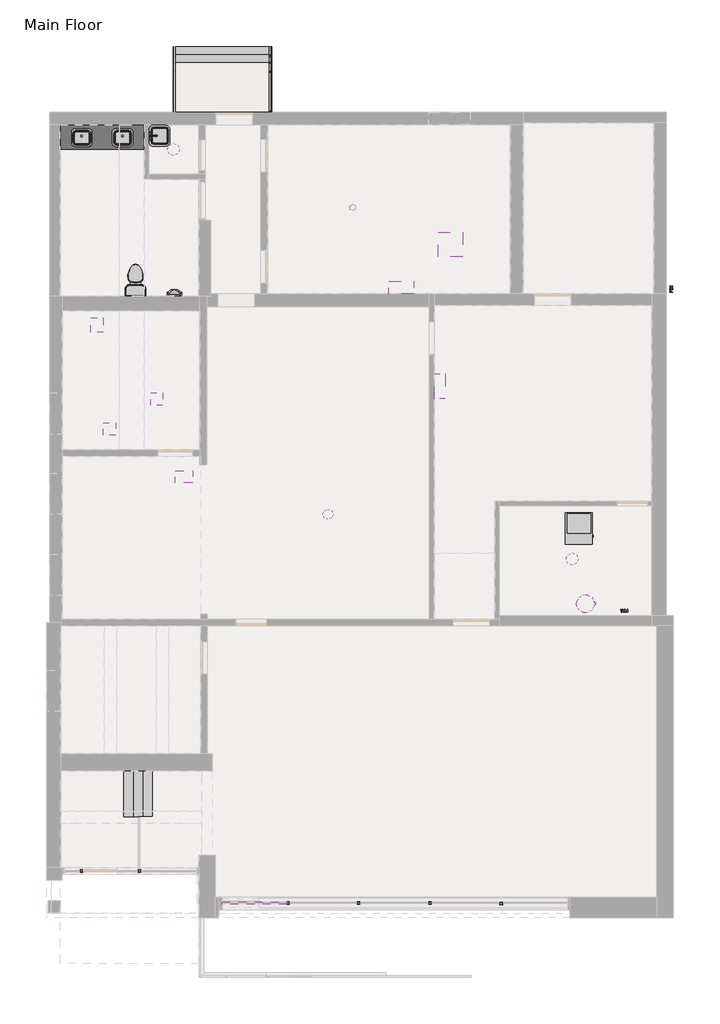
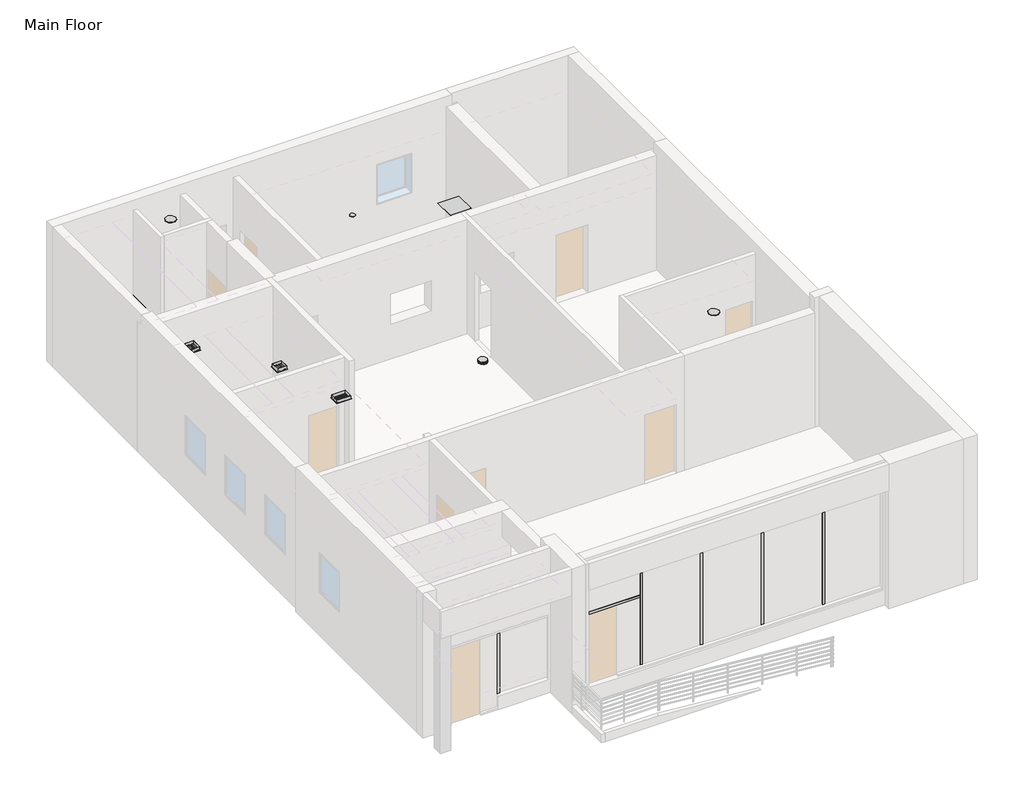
# One storey, part 4 of 4: 23 proxies, 5 flow terminals, 2 stair flights, 1 railing, 1 slab.
"""IFC4 building model written with IfcOpenShell, lengths in millimetres."""

from ifc_helpers import new_model, si_unit, point, frame, frame_2d, origin, place, context, project, spatial, polyline, circle_curve, ellipse_curve, trimmed, segment, composite_curve, outline, extrude, transform, mapped, element, save
from ifc_brep_helpers import plane_surface, cylinder_surface, revolved_surface, advanced_brep
from components import air_grill_2x2_air_grill_2x2_a12f53e0, air_vent_air_vent_815df070, air_vent_air_vent_fe58e0aa, air_vent_air_vent_947aef1c, air_vent_air_vent_ff3797d8, air_vent_air_vent_ae41c83b, ceiling_mounted_light_ceiling_mounted_light_7ff73806, furnace_39496320, hot_water_heater_200_mbh_dcdfe45b, hydro_meter_family3_de04d33e, recessed_light_recessed_light_dcc5d60b, smoke_detector_smoke_detector_231b9623, water_meter_family3_4bf23a0c, bath_basin_500_x_440mm_22030706, bath_basin_500_x_440mm_50045a32, bath_basin_floor_500_x_440mm_6f474ecf, bath_urinal_m_urinal_wall_3d_10477d84, toilet_toilet_5cb52bd4, toilet_toilet_183bbd19, non_monolithic_landing_a57ce1cf, stair_flight_50mm_tread_25mm_nosing_13mm_riser_778b39ea, stair_flight_50mm_tread_25mm_nosing_13mm_riser_2ef6ebb5

model = new_model("IFC4")

# Units and contexts
model_context = context("Model", 3, world=origin())
ifc_project = project(units=[si_unit("LENGTHUNIT", "METRE", prefix="MILLI")], contexts=[model_context])

# Site, building, storey
site = spatial("IfcSite", under=ifc_project)
building = spatial("IfcBuilding", under=site)
storey = spatial("IfcBuildingStorey", under=building, Name="Main Floor", Elevation=0.0)

# Proxies
placement = place(None, origin())
element("IfcBuildingElementProxy", 1, Name="Planitar-Mullion", ObjectType="Planitar-Mullion", at=placement, inside=storey, context=model_context, shape_type="SweptSolid", body=[
    extrude(outline(polyline([(1923.3756997, -9377.7328667), (1923.3756997, -9314.2328667), (1986.8756997, -9314.2328667), (1986.8756997, -9377.7328667), (1923.3756997, -9377.7328667)])), frame((0.0, 0.0, 527.05), z_axis=(0.0, 0.0, 1.0), x_axis=(1.0, 0.0, 0.0)), (0.0, 0.0, 1.0), 3181.35),
])
element("IfcBuildingElementProxy", 2, Name="Planitar-Mullion", ObjectType="Planitar-Mullion", at=placement, inside=storey, context=model_context, shape_type="SweptSolid", body=[
    extrude(outline(polyline([(183.4756997, -9377.7328667), (183.4756997, -9314.2328667), (246.9756997, -9314.2328667), (246.9756997, -9377.7328667), (183.4756997, -9377.7328667)])), frame((0.0, 0.0, 527.05), z_axis=(0.0, 0.0, 1.0), x_axis=(1.0, 0.0, 0.0)), (0.0, 0.0, 1.0), 3181.35),
])
element("IfcBuildingElementProxy", 3, Name="Planitar-Mullion", ObjectType="Planitar-Mullion", at=placement, inside=storey, context=model_context, shape_type="SweptSolid", body=[
    extrude(outline(polyline([(3688.6756997, -9377.7328667), (3688.6756997, -9314.2328667), (3752.1756997, -9314.2328667), (3752.1756997, -9377.7328667), (3688.6756997, -9377.7328667)])), frame((0.0, 0.0, 527.05), z_axis=(0.0, 0.0, 1.0), x_axis=(1.0, 0.0, 0.0)), (0.0, 0.0, 1.0), 3181.35),
])
element("IfcBuildingElementProxy", 4, Name="Planitar-Mullion", ObjectType="Planitar-Mullion", at=placement, inside=storey, context=model_context, shape_type="SweptSolid", body=[
    extrude(outline(polyline([(5453.9756997, -9390.4328667), (5453.9756997, -9326.9328667), (5517.4756997, -9326.9328667), (5517.4756997, -9390.4328667), (5453.9756997, -9390.4328667)])), frame((0.0, 0.0, 527.05), z_axis=(0.0, 0.0, 1.0), x_axis=(1.0, 0.0, 0.0)), (0.0, 0.0, 1.0), 3181.35),
])
element("IfcBuildingElementProxy", 5, Name="Planitar-Mullion", ObjectType="Planitar-Mullion", at=placement, inside=storey, context=model_context, shape_type="SweptSolid", body=[
    extrude(outline(polyline([(-1410.3743003, -9377.7328667), (-1410.3743003, -9314.2328667), (183.4756997, -9314.2328667), (183.4756997, -9377.7328667), (-1410.3743003, -9377.7328667)])), frame((0.0, 0.0, 2590.8), z_axis=(0.0, 0.0, 1.0), x_axis=(1.0, 0.0, 0.0)), (0.0, 0.0, 1.0), 63.5),
])
element("IfcBuildingElementProxy", 6, Name="Planitar-Mullion", ObjectType="Planitar-Mullion", at=placement, inside=storey, context=model_context, shape_type="SweptSolid", body=[
    extrude(outline(polyline([(-3491.6370003, -8590.3328667), (-3491.6370003, -8526.8328667), (-3428.1370003, -8526.8328667), (-3428.1370003, -8590.3328667), (-3491.6370003, -8590.3328667)])), frame((0.0, 0.0, 457.2), z_axis=(0.0, 0.0, 1.0), x_axis=(1.0, 0.0, 0.0)), (0.0, 0.0, 1.0), 1879.6),
])
element("IfcBuildingElementProxy", 7, Name="Planitar-Mullion", ObjectType="Planitar-Mullion", at=placement, inside=storey, context=model_context, shape_type="SweptSolid", body=[
    extrude(outline(polyline([(-4926.7370003, -8590.3328667), (-4926.7370003, -8526.8328667), (-4863.2370003, -8526.8328667), (-4863.2370003, -8590.3328667), (-4926.7370003, -8590.3328667)])), frame((0.0, 0.0, 50.8), z_axis=(0.0, 0.0, 1.0), x_axis=(1.0, 0.0, 0.0)), (0.0, 0.0, 1.0), 2286.0),
])
air_grill_2x2_air_grill_2x2_shape = air_grill_2x2_air_grill_2x2_a12f53e0(model_context)
element("IfcBuildingElementProxy", 8, Name="Air Grill 2X2 : Air Grill 2X2", ObjectType="Air Grill 2X2 : Air Grill 2X2", at=placement, inside=storey, context=model_context, shape_type="MappedRepresentation", body=[
    mapped(air_grill_2x2_air_grill_2x2_shape, transform((4229.9629997, 6934.4889424, 812.8), x_axis=(1.0, 0.0, 0.0), y_axis=(0.0, 1.0, 0.0), z_axis=(0.0, 0.0, 1.0))),
])
air_vent_air_vent_shape = air_vent_air_vent_815df070(model_context)
element("IfcBuildingElementProxy", 9, Name="Air Vent : Air Vent", ObjectType="Air Vent : Air Vent", at=placement, inside=storey, context=model_context, shape_type="MappedRepresentation", body=[
    mapped(air_vent_air_vent_shape, transform((3010.7629997, 5871.0802864, 812.8), x_axis=(0.0, 1.0, 0.0), y_axis=(-1.0, 0.0, 0.0), z_axis=(0.0, 0.0, 1.0))),
])
air_vent_air_vent_2_shape = air_vent_air_vent_fe58e0aa(model_context)
element("IfcBuildingElementProxy", 10, Name="Air Vent : Air Vent", ObjectType="Air Vent : Air Vent", at=placement, inside=storey, context=model_context, shape_type="MappedRepresentation", body=[
    mapped(air_vent_air_vent_2_shape, transform((-4202.8370003, 2376.1171333, 711.2), x_axis=(0.0, 1.0, 0.0), y_axis=(-1.0, 0.0, 0.0), z_axis=(0.0, 0.0, 1.0))),
])
element("IfcBuildingElementProxy", 11, Name="Air Vent : Air Vent", ObjectType="Air Vent : Air Vent", at=placement, inside=storey, context=model_context, shape_type="MappedRepresentation", body=[
    mapped(air_vent_air_vent_2_shape, transform((-3034.4370003, 3112.7171333, 711.2), x_axis=(-1.0, 0.0, 0.0), y_axis=(0.0, -1.0, 0.0), z_axis=(0.0, 0.0, 1.0))),
])
air_vent_air_vent_3_shape = air_vent_air_vent_947aef1c(model_context)
element("IfcBuildingElementProxy", 12, Name="Air Vent : Air Vent", ObjectType="Air Vent : Air Vent", at=placement, inside=storey, context=model_context, shape_type="MappedRepresentation", body=[
    mapped(air_vent_air_vent_3_shape, transform((-4507.6370003, 4941.5171333, 711.2), x_axis=(-1.0, 0.0, 0.0), y_axis=(0.0, -1.0, 0.0), z_axis=(0.0, 0.0, 1.0))),
])
air_vent_air_vent_4_shape = air_vent_air_vent_ff3797d8(model_context)
element("IfcBuildingElementProxy", 13, Name="Air Vent : Air Vent", ObjectType="Air Vent : Air Vent", at=placement, inside=storey, context=model_context, shape_type="MappedRepresentation", body=[
    mapped(air_vent_air_vent_4_shape, transform((-2361.3370003, 1195.0171333, 711.2), x_axis=(0.0, 1.0, 0.0), y_axis=(-1.0, 0.0, 0.0), z_axis=(0.0, 0.0, 1.0))),
])
air_vent_air_vent_5_shape = air_vent_air_vent_ae41c83b(model_context)
element("IfcBuildingElementProxy", 14, Name="Air Vent : Air Vent", ObjectType="Air Vent : Air Vent", at=placement, inside=storey, context=model_context, shape_type="MappedRepresentation", body=[
    mapped(air_vent_air_vent_5_shape, transform((3963.2629997, 3430.2171333, 609.6), x_axis=(-1.0, 0.0, 0.0), y_axis=(0.0, -1.0, 0.0), z_axis=(0.0, 0.0, 1.0))),
])
ceiling_mounted_light_ceiling_mounted_light_shape = ceiling_mounted_light_ceiling_mounted_light_7ff73806(model_context)
element("IfcBuildingElementProxy", 15, Name="Ceiling Mounted Light : Ceiling Mounted Light", ObjectType="Ceiling Mounted Light : Ceiling Mounted Light", at=placement, inside=storey, context=model_context, shape_type="MappedRepresentation", body=[
    mapped(ceiling_mounted_light_ceiling_mounted_light_shape, transform((-2621.6870003, 9284.9171333, 1371.6), x_axis=(1.0, 0.0, 0.0), y_axis=(0.0, 1.0, 0.0), z_axis=(0.0, 0.0, 1.0))),
])
element("IfcBuildingElementProxy", 16, Name="Ceiling Mounted Light : Ceiling Mounted Light", ObjectType="Ceiling Mounted Light : Ceiling Mounted Light", at=placement, inside=storey, context=model_context, shape_type="MappedRepresentation", body=[
    mapped(ceiling_mounted_light_ceiling_mounted_light_shape, transform((7239.8629997, -843.3328667, 1219.2), x_axis=(1.0, 0.0, 0.0), y_axis=(0.0, 1.0, 0.0), z_axis=(0.0, 0.0, 1.0))),
])
element("IfcBuildingElementProxy", 17, Name="Countertop- Rectangle shape base : 1525 x 762mm", ObjectType="Countertop- Rectangle shape base : 1525 x 762mm", at=placement, inside=storey, context=model_context, shape_type="SolidModel", body=[
    extrude(outline(polyline([(-5320.4370003, 9392.8671333), (-5320.4370003, 9799.2671333), (-3447.1870003, 9799.2671333), (-3447.1870003, 9392.8671333), (-5320.4370003, 9392.8671333)])), frame((0.0, 0.0, 457.2), z_axis=(0.0, 0.0, 1.0), x_axis=(1.0, 0.0, 0.0)), (0.0, 0.0, 1.0), 101.6),
    advanced_brep(
    [(-5422.0370003, 9291.2671333, 558.8), (-5422.0370003, 9900.8671333, 558.8), (-3345.5870003, 9900.8671333, 558.8), (-3345.5870003, 9291.2671333, 558.8), (-5422.0370003, 9291.2671333, 1333.5), (-3345.5870003, 9291.2671333, 1333.5), (-3345.5870003, 9900.8671333, 1333.5), (-5422.0370003, 9900.8671333, 1333.5), (-5049.7370003, 9357.0171333, 1333.5), (-5138.6370002, 9445.9171332, 1333.5), (-5138.6370002, 9733.5171333, 1333.5), (-5075.1370002, 9797.0171333, 1333.5), (-4702.1370003, 9797.0171333, 1333.5), (-4638.6370003, 9733.5171333, 1333.5), (-4638.6370003, 9441.3672004, 1333.5), (-4722.9870674, 9357.0171333, 1333.5), (-3628.9870004, 9445.9171332, 1333.5), (-3717.8870003, 9357.0171333, 1333.5), (-4044.6369332, 9357.0171333, 1333.5), (-4128.9870003, 9441.3672004, 1333.5), (-4128.9870003, 9733.5171333, 1333.5), (-4065.4870003, 9797.0171333, 1333.5), (-3692.4870004, 9797.0171333, 1333.5), (-3628.9870004, 9733.5171333, 1333.5), (-5138.6370002, 9445.9171332, 1019.9380761), (-5049.7370003, 9357.0171333, 1019.9380761), (-4722.9870674, 9357.0171333, 1019.9380761), (-4638.6370003, 9441.3672004, 1019.9380761), (-4638.6370003, 9733.5171333, 1019.9380761), (-4702.1370003, 9797.0171333, 1019.9380761), (-5075.1370002, 9797.0171333, 1019.9380761), (-5138.6370002, 9733.5171333, 1019.9380761), (-3628.9870004, 9445.9171332, 1019.9380761), (-3628.9870004, 9733.5171333, 1019.9380761), (-3692.4870004, 9797.0171333, 1019.9380761), (-4065.4870003, 9797.0171333, 1019.9380761), (-4128.9870003, 9733.5171333, 1019.9380761), (-4128.9870003, 9441.3672004, 1019.9380761), (-4044.6369332, 9357.0171333, 1019.9380761), (-3717.8870003, 9357.0171333, 1019.9380761)],
    [
        (0, 1),
        (1, 2),
        (2, 3),
        (3, 0),
        (4, 5),
        (5, 6),
        (6, 7),
        (7, 4),
        (8, 9, circle_curve(frame((-5049.7370003, 9445.9171332, 1333.5), z_axis=(0.0, 0.0, -1.0), x_axis=(1.0, 0.0, 0.0)), 88.8999999)),
        (9, 10),
        (10, 11, circle_curve(frame((-5075.1370002, 9733.5171333, 1333.5), z_axis=(0.0, 0.0, -1.0), x_axis=(1.0, 0.0, 0.0)), 63.5)),
        (11, 12),
        (12, 13, circle_curve(frame((-4702.1370003, 9733.5171333, 1333.5), z_axis=(0.0, 0.0, -1.0), x_axis=(1.0, 0.0, 0.0)), 63.5)),
        (13, 14),
        (14, 15, circle_curve(frame((-4722.9870674, 9441.3672004, 1333.5), z_axis=(0.0, 0.0, -1.0), x_axis=(1.0, 0.0, 0.0)), 84.3500671)),
        (15, 8),
        (16, 17, circle_curve(frame((-3717.8870003, 9445.9171332, 1333.5), z_axis=(0.0, 0.0, -1.0), x_axis=(-1.0, 0.0, 0.0)), 88.8999999)),
        (17, 18),
        (18, 19, circle_curve(frame((-4044.6369332, 9441.3672004, 1333.5), z_axis=(0.0, 0.0, -1.0), x_axis=(-1.0, 0.0, 0.0)), 84.3500671)),
        (19, 20),
        (20, 21, circle_curve(frame((-4065.4870003, 9733.5171333, 1333.5), z_axis=(0.0, 0.0, -1.0), x_axis=(-1.0, 0.0, 0.0)), 63.5)),
        (21, 22),
        (22, 23, circle_curve(frame((-3692.4870004, 9733.5171333, 1333.5), z_axis=(0.0, 0.0, -1.0), x_axis=(-1.0, 0.0, 0.0)), 63.5)),
        (23, 16),
        (3, 5),
        (4, 0),
        (2, 6),
        (1, 7),
        (24, 25, circle_curve(frame((-5049.7370003, 9445.9171332, 1019.9380761), z_axis=(0.0, 0.0, 1.0), x_axis=(1.0, 0.0, 0.0)), 88.8999999)),
        (25, 26),
        (26, 27, circle_curve(frame((-4722.9870674, 9441.3672004, 1019.9380761), z_axis=(0.0, 0.0, 1.0), x_axis=(1.0, 0.0, 0.0)), 84.3500671)),
        (27, 28),
        (28, 29, circle_curve(frame((-4702.1370003, 9733.5171333, 1019.9380761), z_axis=(0.0, 0.0, 1.0), x_axis=(1.0, 0.0, 0.0)), 63.5)),
        (29, 30),
        (30, 31, circle_curve(frame((-5075.1370002, 9733.5171333, 1019.9380761), z_axis=(0.0, 0.0, 1.0), x_axis=(1.0, 0.0, 0.0)), 63.5)),
        (31, 24),
        (24, 9),
        (8, 25),
        (15, 26),
        (14, 27),
        (13, 28),
        (12, 29),
        (11, 30),
        (10, 31),
        (32, 33),
        (33, 34, circle_curve(frame((-3692.4870004, 9733.5171333, 1019.9380761), z_axis=(0.0, 0.0, 1.0), x_axis=(-1.0, 0.0, 0.0)), 63.5)),
        (34, 35),
        (35, 36, circle_curve(frame((-4065.4870003, 9733.5171333, 1019.9380761), z_axis=(0.0, 0.0, 1.0), x_axis=(-1.0, 0.0, 0.0)), 63.5)),
        (36, 37),
        (37, 38, circle_curve(frame((-4044.6369332, 9441.3672004, 1019.9380761), z_axis=(0.0, 0.0, 1.0), x_axis=(-1.0, 0.0, 0.0)), 84.3500671)),
        (38, 39),
        (39, 32, circle_curve(frame((-3717.8870003, 9445.9171332, 1019.9380761), z_axis=(0.0, 0.0, 1.0), x_axis=(-1.0, 0.0, 0.0)), 88.8999999)),
        (39, 17),
        (16, 32),
        (38, 18),
        (37, 19),
        (36, 20),
        (35, 21),
        (34, 22),
        (33, 23),
    ],
    [
        plane_surface(frame((-3345.5870003, 9291.2671333, 558.8), z_axis=(0.0, 0.0, -1.0), x_axis=(-1.0, 0.0, 0.0))),
        plane_surface(frame((-3345.5870003, 9291.2671333, 1333.5), z_axis=(0.0, 0.0, 1.0), x_axis=(1.0, 0.0, 0.0))),
        plane_surface(frame((-5422.0370003, 9291.2671333, 1333.5), z_axis=(0.0, -1.0, 0.0), x_axis=(0.0, 0.0, -1.0))),
        plane_surface(frame((-3345.5870003, 9291.2671333, 1333.5), z_axis=(1.0, 0.0, 0.0), x_axis=(0.0, 0.0, -1.0))),
        plane_surface(frame((-3345.5870003, 9900.8671333, 1333.5), z_axis=(0.0, 1.0, 0.0), x_axis=(0.0, 0.0, -1.0))),
        plane_surface(frame((-5422.0370003, 9900.8671333, 1333.5), z_axis=(-1.0, 0.0, 0.0), x_axis=(0.0, 0.0, -1.0))),
        plane_surface(frame((-4960.8370004, 9445.9171332, 1019.9380761), z_axis=(0.0, 0.0, 1.0), x_axis=(0.0, -1.0, 0.0))),
        revolved_surface(polyline([(-4960.8370004, 9445.9171332, 1333.5), (-4960.8370004, 9445.9171332, 1019.9380761)]), (-5049.7370003, 9445.9171332, 1019.9380761), (0.0, 0.0, 1.0)),
        plane_surface(frame((-5049.7370003, 9357.0171333, 1422.4), z_axis=(0.0, 1.0, 0.0), x_axis=(0.0, 0.0, -1.0))),
        revolved_surface(polyline([(-4638.6370003, 9441.3672004, 1333.5), (-4638.6370003, 9441.3672004, 1019.9380761)]), (-4722.9870674, 9441.3672004, 1019.9380761), (0.0, 0.0, 1.0)),
        plane_surface(frame((-4638.6370003, 9441.3672004, 1422.4), z_axis=(-1.0, 0.0, 0.0), x_axis=(0.0, 0.0, -1.0))),
        revolved_surface(polyline([(-4638.6370003, 9733.5171333, 1333.5), (-4638.6370003, 9733.5171333, 1019.9380761)]), (-4702.1370003, 9733.5171333, 1019.9380761), (0.0, 0.0, 1.0)),
        plane_surface(frame((-4702.1370003, 9797.0171333, 1422.4), z_axis=(0.0, -1.0, 0.0), x_axis=(0.0, 0.0, -1.0))),
        revolved_surface(polyline([(-5011.6370002, 9733.5171333, 1333.5), (-5011.6370002, 9733.5171333, 1019.9380761)]), (-5075.1370002, 9733.5171333, 1019.9380761), (0.0, 0.0, 1.0)),
        plane_surface(frame((-5138.6370002, 9733.5171333, 1422.4), z_axis=(1.0, 0.0, 0.0), x_axis=(0.0, 0.0, -1.0))),
        plane_surface(frame((-3806.7870002, 9445.9171332, 1019.9380761), z_axis=(0.0, 0.0, 1.0), x_axis=(0.0, -1.0, 0.0))),
        revolved_surface(polyline([(-3806.7870002, 9445.9171332, 1333.5), (-3806.7870002, 9445.9171332, 1019.9380761)]), (-3717.8870003, 9445.9171332, 1019.9380761), (0.0, 0.0, 1.0)),
        plane_surface(frame((-3717.8870003, 9357.0171333, 1422.4), z_axis=(0.0, 1.0, 0.0), x_axis=(0.0, 0.0, -1.0))),
        revolved_surface(polyline([(-4128.9870003, 9441.3672004, 1333.5), (-4128.9870003, 9441.3672004, 1019.9380761)]), (-4044.6369332, 9441.3672004, 1019.9380761), (0.0, 0.0, 1.0)),
        plane_surface(frame((-4128.9870003, 9441.3672004, 1422.4), z_axis=(1.0, 0.0, 0.0), x_axis=(0.0, 0.0, -1.0))),
        revolved_surface(polyline([(-4128.9870003, 9733.5171333, 1333.5), (-4128.9870003, 9733.5171333, 1019.9380761)]), (-4065.4870003, 9733.5171333, 1019.9380761), (0.0, 0.0, 1.0)),
        plane_surface(frame((-4065.4870003, 9797.0171333, 1422.4), z_axis=(0.0, -1.0, 0.0), x_axis=(0.0, 0.0, -1.0))),
        revolved_surface(polyline([(-3755.9870004, 9733.5171333, 1333.5), (-3755.9870004, 9733.5171333, 1019.9380761)]), (-3692.4870004, 9733.5171333, 1019.9380761), (0.0, 0.0, 1.0)),
        plane_surface(frame((-3628.9870004, 9733.5171333, 1422.4), z_axis=(-1.0, 0.0, 0.0), x_axis=(0.0, 0.0, -1.0))),
    ],
    [
        (0, [[1, 2, 3, 4]]),
        (1, [[5, 6, 7, 8], [9, 10, 11, 12, 13, 14, 15, 16], [17, 18, 19, 20, 21, 22, 23, 24]]),
        (2, [[-4, 25, -5, 26]]),
        (3, [[-3, 27, -6, -25]]),
        (4, [[-2, 28, -7, -27]]),
        (5, [[-1, -26, -8, -28]]),
        (6, [[29, 30, 31, 32, 33, 34, 35, 36]]),
        (7, [[-29, 37, -9, 38]]),
        (8, [[-30, -38, -16, 39]]),
        (9, [[-31, -39, -15, 40]]),
        (10, [[-32, -40, -14, 41]]),
        (11, [[-33, -41, -13, 42]]),
        (12, [[-34, -42, -12, 43]]),
        (13, [[-35, -43, -11, 44]]),
        (14, [[-36, -44, -10, -37]]),
        (15, [[45, 46, 47, 48, 49, 50, 51, 52]]),
        (16, [[-52, 53, -17, 54]]),
        (17, [[-51, 55, -18, -53]]),
        (18, [[-50, 56, -19, -55]]),
        (19, [[-49, 57, -20, -56]]),
        (20, [[-48, 58, -21, -57]]),
        (21, [[-47, 59, -22, -58]]),
        (22, [[-46, 60, -23, -59]]),
        (23, [[-45, -54, -24, -60]]),
    ],
),
    extrude(outline(polyline([(-3326.5370003, 9919.9171333), (-3326.5370003, 9272.2171333), (-5441.0870003, 9272.2171333), (-5441.0870003, 9919.9171333), (-3326.5370003, 9919.9171333)]), holes=[composite_curve([segment(trimmed(circle_curve(frame_2d((-5049.7370003, 9445.9171332)), 88.8999999), [point((-5138.6370002, 9445.9171332))], [point((-5049.7370003, 9357.0171333))], True, "CARTESIAN"), True, "CONTINUOUS"), segment(polyline([(-5049.7370003, 9357.0171333), (-4722.9870674, 9357.0171333)]), True, "CONTINUOUS"), segment(trimmed(circle_curve(frame_2d((-4722.9870674, 9441.3672004)), 84.3500671), [point((-4722.9870674, 9357.0171333))], [point((-4638.6370003, 9441.3672004))], True, "CARTESIAN"), True, "CONTINUOUS"), segment(polyline([(-4638.6370003, 9441.3672004), (-4638.6370003, 9733.5171333)]), True, "CONTINUOUS"), segment(trimmed(circle_curve(frame_2d((-4702.1370003, 9733.5171333)), 63.5), [point((-4638.6370003, 9733.5171333))], [point((-4702.1370003, 9797.0171333))], True, "CARTESIAN"), True, "CONTINUOUS"), segment(polyline([(-4702.1370003, 9797.0171333), (-5075.1370002, 9797.0171333)]), True, "CONTINUOUS"), segment(trimmed(circle_curve(frame_2d((-5075.1370002, 9733.5171333)), 63.5), [point((-5075.1370002, 9797.0171333))], [point((-5138.6370002, 9733.5171333))], True, "CARTESIAN"), True, "CONTINUOUS"), segment(polyline([(-5138.6370002, 9733.5171333), (-5138.6370002, 9445.9171332)]), True, "CONTINUOUS")], self_intersect=False), composite_curve([segment(trimmed(circle_curve(frame_2d((-3717.8870003, 9445.9171332)), 88.8999999), [point((-3717.8870003, 9357.0171333))], [point((-3628.9870004, 9445.9171332))], True, "CARTESIAN"), True, "CONTINUOUS"), segment(polyline([(-3628.9870004, 9445.9171332), (-3628.9870004, 9733.5171333)]), True, "CONTINUOUS"), segment(trimmed(circle_curve(frame_2d((-3692.4870004, 9733.5171333)), 63.5), [point((-3628.9870004, 9733.5171333))], [point((-3692.4870004, 9797.0171333))], True, "CARTESIAN"), True, "CONTINUOUS"), segment(polyline([(-3692.4870004, 9797.0171333), (-4065.4870003, 9797.0171333)]), True, "CONTINUOUS"), segment(trimmed(circle_curve(frame_2d((-4065.4870003, 9733.5171333)), 63.5), [point((-4065.4870003, 9797.0171333))], [point((-4128.9870003, 9733.5171333))], True, "CARTESIAN"), True, "CONTINUOUS"), segment(polyline([(-4128.9870003, 9733.5171333), (-4128.9870003, 9441.3672004)]), True, "CONTINUOUS"), segment(trimmed(circle_curve(frame_2d((-4044.6369332, 9441.3672004)), 84.3500671), [point((-4128.9870003, 9441.3672004))], [point((-4044.6369332, 9357.0171333))], True, "CARTESIAN"), True, "CONTINUOUS"), segment(polyline([(-4044.6369332, 9357.0171333), (-3717.8870003, 9357.0171333)]), True, "CONTINUOUS")], self_intersect=False)]), frame((0.0, 0.0, 1333.5), z_axis=(0.0, 0.0, 1.0), x_axis=(1.0, 0.0, 0.0)), (0.0, 0.0, 1.0), 38.1),
])
furnace_shape = furnace_39496320(model_context)
element("IfcBuildingElementProxy", 18, Name="Furnace : 38000 BTUH", ObjectType="Furnace : 38000 BTUH", at=placement, inside=storey, context=model_context, shape_type="MappedRepresentation", body=[
    mapped(furnace_shape, transform((7735.1629997, 299.6671333, 0.0), x_axis=(1.0, 0.0, 0.0), y_axis=(0.0, 1.0, 0.0), z_axis=(0.0, 0.0, 1.0))),
])
hot_water_heater_200_mbh_shape = hot_water_heater_200_mbh_dcdfe45b(model_context)
element("IfcBuildingElementProxy", 19, Name="Hot Water Heater : 200 MBH", ObjectType="Hot Water Heater : 200 MBH", at=placement, inside=storey, context=model_context, shape_type="MappedRepresentation", body=[
    mapped(hot_water_heater_200_mbh_shape, transform((7570.0629997, -1948.2328667, 1828.8), x_axis=(0.0, 1.0, 0.0), y_axis=(-1.0, 0.0, 0.0), z_axis=(0.0, 0.0, 1.0))),
])
hydro_meter_family3_shape = hydro_meter_family3_de04d33e(model_context)
element("IfcBuildingElementProxy", 20, Name="Hydro Meter : Family3", ObjectType="Hydro Meter : Family3", at=placement, inside=storey, context=model_context, shape_type="MappedRepresentation", body=[
    mapped(hydro_meter_family3_shape, transform((9563.9629997, 6008.3171333, 304.8), x_axis=(0.0, -1.0, 0.0), y_axis=(1.0, 0.0, 0.0), z_axis=(0.0, 0.0, 1.0))),
])
recessed_light_recessed_light_shape = recessed_light_recessed_light_dcc5d60b(model_context)
element("IfcBuildingElementProxy", 21, Name="Recessed Light : Recessed Light", ObjectType="Recessed Light : Recessed Light", at=placement, inside=storey, context=model_context, shape_type="MappedRepresentation", body=[
    mapped(recessed_light_recessed_light_shape, transform((1810.6129997, 7849.8171333, 812.8), x_axis=(1.0, 0.0, 0.0), y_axis=(0.0, 1.0, 0.0), z_axis=(0.0, 0.0, 1.0))),
])
smoke_detector_smoke_detector_shape = smoke_detector_smoke_detector_231b9623(model_context)
element("IfcBuildingElementProxy", 22, Name="Smoke Detector : Smoke_Detector", ObjectType="Smoke Detector : Smoke_Detector", at=placement, inside=storey, context=model_context, shape_type="MappedRepresentation", body=[
    mapped(smoke_detector_smoke_detector_shape, transform((1198.8548965, 266.5099897, 1219.2), x_axis=(1.0, 0.0, 0.0), y_axis=(0.0, 1.0, 0.0), z_axis=(0.0, 0.0, 1.0))),
])
water_meter_family3_shape = water_meter_family3_4bf23a0c(model_context)
element("IfcBuildingElementProxy", 23, Name="Water Meter : Family3", ObjectType="Water Meter : Family3", at=placement, inside=storey, context=model_context, shape_type="MappedRepresentation", body=[
    mapped(water_meter_family3_shape, transform((8335.8215546, -2239.5851528, 609.6), x_axis=(1.0, 0.0, 0.0), y_axis=(0.0, 1.0, 0.0), z_axis=(0.0, 0.0, 1.0))),
])

# Flow terminals
bath_basin_500_x_440mm_shape = bath_basin_500_x_440mm_22030706(model_context)
element("IfcFlowTerminal", 24, ObjectType="Bath-Basin : 500 x 440mm", at=placement, inside=storey, context=model_context, shape_type="MappedRepresentation", body=[
    mapped(bath_basin_500_x_440mm_shape, transform((-4904.3262409, 9616.8717322, 596.9), x_axis=(1.0, 0.0, 0.0), y_axis=(0.0, 1.0, 0.0), z_axis=(0.0, 0.0, 1.0))),
])
bath_basin_500_x_440mm_2_shape = bath_basin_500_x_440mm_50045a32(model_context)
element("IfcFlowTerminal", 25, ObjectType="Bath-Basin : 500 x 440mm", at=placement, inside=storey, context=model_context, shape_type="MappedRepresentation", body=[
    mapped(bath_basin_500_x_440mm_2_shape, transform((-3863.2977597, 9616.8717322, 596.9), x_axis=(-1.0, 0.0, 0.0), y_axis=(0.0, -1.0, 0.0), z_axis=(0.0, 0.0, 1.0))),
])
bath_basin_floor_500_x_440mm_shape = bath_basin_floor_500_x_440mm_6f474ecf(model_context)
element("IfcFlowTerminal", 26, ObjectType="Bath-Basin Floor : 500 x 440mm", at=placement, inside=storey, context=model_context, shape_type="MappedRepresentation", body=[
    mapped(bath_basin_floor_500_x_440mm_shape, transform((-3038.4415992, 9609.7778927, 0.0), x_axis=(0.0, 1.0, 0.0), y_axis=(-1.0, 0.0, 0.0), z_axis=(0.0, 0.0, 1.0))),
])
bath_urinal_m_urinal_wall_3d_shape = bath_urinal_m_urinal_wall_3d_10477d84(model_context)
element("IfcFlowTerminal", 27, ObjectType="Bath-Urinal : M_Urinal-Wall-3D", at=placement, inside=storey, context=model_context, shape_type="MappedRepresentation", body=[
    mapped(bath_urinal_m_urinal_wall_3d_shape, transform((-2487.4695748, 5474.9171333, 0.0), x_axis=(1.0, 0.0, 0.0), y_axis=(0.0, 1.0, 0.0), z_axis=(0.0, 0.0, 1.0))),
])
toilet_toilet_shape = toilet_toilet_5cb52bd4(model_context)
toilet_toilet_2_shape = toilet_toilet_183bbd19(model_context)
element("IfcFlowTerminal", 28, ObjectType="Toilet : Toilet", at=placement, inside=storey, context=model_context, shape_type="MappedRepresentation", body=[
    mapped(toilet_toilet_shape, transform((-3558.3120003, 6147.4131606, 457.2), x_axis=(-1.0, 0.0, 0.0), y_axis=(0.0, -1.0, 0.0), z_axis=(0.0, 0.0, 1.0))),
    mapped(toilet_toilet_2_shape, transform((-3558.3120003, 6147.4131606, 457.2), x_axis=(-1.0, 0.0, 0.0), y_axis=(0.0, -1.0, 0.0), z_axis=(0.0, 0.0, 1.0))),
])

# Railing
element("IfcRailing", 29, ObjectType="900mm Pipe", at=placement, inside=storey, context=model_context, shape_type="SolidModel", body=[
    advanced_brep(
    [(-250.6120003, 11831.2671333, 1027.4), (-210.6120003, 11831.2671333, 1027.4), (-250.6120003, 11418.2004666, 1337.2), (-210.6120003, 11418.2004666, 1337.2), (-250.6120003, 10205.6671333, 1337.2), (-210.6120003, 10205.6671333, 1337.2)],
    [
        (0, 1, ellipse_curve(frame((-230.6120003, 11831.2671333, 1027.4), z_axis=(0.0, 1.0, 0.0), x_axis=(0.0, 0.0, -1.0)), 25.0, 20.0)),
        (1, 0, ellipse_curve(frame((-230.6120003, 11831.2671333, 1027.4), z_axis=(0.0, 1.0, 0.0), x_axis=(0.0, 0.0, -1.0)), 25.0, 20.0)),
        (0, 2),
        (2, 3, ellipse_curve(frame((-230.6120003, 11418.2004666, 1337.2), z_axis=(0.0, 0.9486832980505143, -0.3162277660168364), x_axis=(0.0, -0.3162277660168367, -0.9486832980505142)), 21.0818511, 20.0)),
        (3, 1),
        (3, 2, ellipse_curve(frame((-230.6120003, 11418.2004666, 1337.2), z_axis=(0.0, 0.9486832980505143, -0.3162277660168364), x_axis=(0.0, -0.3162277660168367, -0.9486832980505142)), 21.0818511, 20.0)),
        (4, 5, circle_curve(frame((-230.6120003, 10205.6671333, 1337.2), z_axis=(0.0, -1.0, 0.0), x_axis=(1.0, 0.0, 0.0)), 20.0)),
        (5, 4, circle_curve(frame((-230.6120003, 10205.6671333, 1337.2), z_axis=(0.0, -1.0, 0.0), x_axis=(1.0, 0.0, 0.0)), 20.0)),
        (2, 4),
        (5, 3),
    ],
    [
        plane_surface(frame((-230.6120003, 11831.2671333, 1052.4), z_axis=(0.0, 1.0, 0.0), x_axis=(0.0, 0.0, -1.0))),
        cylinder_surface(frame((-230.6120003, 11819.2671333, 1036.4), z_axis=(0.0, 0.8000000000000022, -0.5999999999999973), x_axis=(1.0, 0.0, 0.0)), 20.0),
        plane_surface(frame((-230.6120003, 10205.6671333, 1357.2), z_axis=(0.0, -1.0, 0.0), x_axis=(0.0, 0.0, -1.0))),
        cylinder_surface(frame((-230.6120003, 11424.8671333, 1337.2), z_axis=(0.0, 1.0, 0.0), x_axis=(1.0, 0.0, 0.0)), 20.0),
    ],
    [
        (0, [[1, 2]]),
        (1, [[-1, 3, 4, 5]]),
        (1, [[-2, -5, 6, -3]]),
        (2, [[7, 8]]),
        (3, [[-4, 9, -8, 10]]),
        (3, [[-6, -10, -7, -9]]),
    ],
),
    advanced_brep(
    [(-245.6120003, 10205.6671333, 1217.2), (-215.6120003, 10205.6671333, 1217.2), (-245.6120003, 11419.8671333, 1217.2), (-215.6120003, 11419.8671333, 1217.2), (-245.6120003, 11831.2671333, 908.65), (-215.6120003, 11831.2671333, 908.65)],
    [
        (0, 1, circle_curve(frame((-230.6120003, 10205.6671333, 1217.2), z_axis=(0.0, -1.0, 0.0), x_axis=(1.0, 0.0, 0.0)), 15.0)),
        (1, 0, circle_curve(frame((-230.6120003, 10205.6671333, 1217.2), z_axis=(0.0, -1.0, 0.0), x_axis=(1.0, 0.0, 0.0)), 15.0)),
        (0, 2),
        (2, 3, ellipse_curve(frame((-230.6120003, 11419.8671333, 1217.2), z_axis=(0.0, -0.9486832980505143, 0.31622776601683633), x_axis=(0.0, -0.31622776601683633, -0.9486832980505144)), 15.8113883, 15.0)),
        (3, 1),
        (3, 2, ellipse_curve(frame((-230.6120003, 11419.8671333, 1217.2), z_axis=(0.0, -0.9486832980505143, 0.31622776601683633), x_axis=(0.0, -0.31622776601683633, -0.9486832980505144)), 15.8113883, 15.0)),
        (4, 5, ellipse_curve(frame((-230.6120003, 11831.2671333, 908.65), z_axis=(0.0, 1.0, 0.0), x_axis=(0.0, 0.0, 1.0)), 18.75, 15.0)),
        (5, 4, ellipse_curve(frame((-230.6120003, 11831.2671333, 908.65), z_axis=(0.0, 1.0, 0.0), x_axis=(0.0, 0.0, 1.0)), 18.75, 15.0)),
        (2, 4),
        (5, 3),
    ],
    [
        plane_surface(frame((-230.6120003, 10205.6671333, 1232.2), z_axis=(0.0, -1.0, 0.0), x_axis=(0.0, 0.0, 1.0))),
        cylinder_surface(frame((-230.6120003, 10205.6671333, 1217.2), z_axis=(0.0, -1.0, 0.0), x_axis=(1.0, 0.0, 0.0)), 15.0),
        plane_surface(frame((-230.6120003, 11831.2671333, 927.4), z_axis=(0.0, 1.0, 0.0), x_axis=(0.0, 0.0, 1.0))),
        cylinder_surface(frame((-230.6120003, 11415.8671333, 1220.2), z_axis=(0.0, -0.800000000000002, 0.5999999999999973), x_axis=(1.0, 0.0, 0.0)), 15.0),
    ],
    [
        (0, [[1, 2]]),
        (1, [[-1, 3, 4, 5]]),
        (1, [[-2, -5, 6, -3]]),
        (2, [[7, 8]]),
        (3, [[-4, 9, -8, 10]]),
        (3, [[-6, -10, -7, -9]]),
    ],
),
    advanced_brep(
    [(-245.6120003, 10205.6671333, 1092.2), (-215.6120003, 10205.6671333, 1092.2), (-245.6120003, 11419.8671333, 1092.2), (-215.6120003, 11419.8671333, 1092.2), (-245.6120003, 11831.2671333, 783.65), (-215.6120003, 11831.2671333, 783.65)],
    [
        (0, 1, circle_curve(frame((-230.6120003, 10205.6671333, 1092.2), z_axis=(0.0, -1.0, 0.0), x_axis=(1.0, 0.0, 0.0)), 15.0)),
        (1, 0, circle_curve(frame((-230.6120003, 10205.6671333, 1092.2), z_axis=(0.0, -1.0, 0.0), x_axis=(1.0, 0.0, 0.0)), 15.0)),
        (0, 2),
        (2, 3, ellipse_curve(frame((-230.6120003, 11419.8671333, 1092.2), z_axis=(0.0, -0.9486832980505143, 0.31622776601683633), x_axis=(0.0, -0.31622776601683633, -0.9486832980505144)), 15.8113883, 15.0)),
        (3, 1),
        (3, 2, ellipse_curve(frame((-230.6120003, 11419.8671333, 1092.2), z_axis=(0.0, -0.9486832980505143, 0.31622776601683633), x_axis=(0.0, -0.31622776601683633, -0.9486832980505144)), 15.8113883, 15.0)),
        (4, 5, ellipse_curve(frame((-230.6120003, 11831.2671333, 783.65), z_axis=(0.0, 1.0, 0.0), x_axis=(0.0, 0.0, 1.0)), 18.75, 15.0)),
        (5, 4, ellipse_curve(frame((-230.6120003, 11831.2671333, 783.65), z_axis=(0.0, 1.0, 0.0), x_axis=(0.0, 0.0, 1.0)), 18.75, 15.0)),
        (2, 4),
        (5, 3),
    ],
    [
        plane_surface(frame((-230.6120003, 10205.6671333, 1107.2), z_axis=(0.0, -1.0, 0.0), x_axis=(0.0, 0.0, 1.0))),
        cylinder_surface(frame((-230.6120003, 10205.6671333, 1092.2), z_axis=(0.0, -1.0, 0.0), x_axis=(1.0, 0.0, 0.0)), 15.0),
        plane_surface(frame((-230.6120003, 11831.2671333, 802.4), z_axis=(0.0, 1.0, 0.0), x_axis=(0.0, 0.0, 1.0))),
        cylinder_surface(frame((-230.6120003, 11415.8671333, 1095.2), z_axis=(0.0, -0.800000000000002, 0.5999999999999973), x_axis=(1.0, 0.0, 0.0)), 15.0),
    ],
    [
        (0, [[1, 2]]),
        (1, [[-1, 3, 4, 5]]),
        (1, [[-2, -5, 6, -3]]),
        (2, [[7, 8]]),
        (3, [[-4, 9, -8, 10]]),
        (3, [[-6, -10, -7, -9]]),
    ],
),
    advanced_brep(
    [(-245.6120003, 10205.6671333, 967.2), (-215.6120003, 10205.6671333, 967.2), (-245.6120003, 11419.8671333, 967.2), (-215.6120003, 11419.8671333, 967.2), (-245.6120003, 11831.2671333, 658.65), (-215.6120003, 11831.2671333, 658.65)],
    [
        (0, 1, circle_curve(frame((-230.6120003, 10205.6671333, 967.2), z_axis=(0.0, -1.0, 0.0), x_axis=(1.0, 0.0, 0.0)), 15.0)),
        (1, 0, circle_curve(frame((-230.6120003, 10205.6671333, 967.2), z_axis=(0.0, -1.0, 0.0), x_axis=(1.0, 0.0, 0.0)), 15.0)),
        (0, 2),
        (2, 3, ellipse_curve(frame((-230.6120003, 11419.8671333, 967.2), z_axis=(0.0, -0.9486832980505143, 0.31622776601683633), x_axis=(0.0, -0.31622776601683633, -0.9486832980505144)), 15.8113883, 15.0)),
        (3, 1),
        (3, 2, ellipse_curve(frame((-230.6120003, 11419.8671333, 967.2), z_axis=(0.0, -0.9486832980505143, 0.31622776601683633), x_axis=(0.0, -0.31622776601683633, -0.9486832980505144)), 15.8113883, 15.0)),
        (4, 5, ellipse_curve(frame((-230.6120003, 11831.2671333, 658.65), z_axis=(0.0, 1.0, 0.0), x_axis=(0.0, 0.0, 1.0)), 18.75, 15.0)),
        (5, 4, ellipse_curve(frame((-230.6120003, 11831.2671333, 658.65), z_axis=(0.0, 1.0, 0.0), x_axis=(0.0, 0.0, 1.0)), 18.75, 15.0)),
        (2, 4),
        (5, 3),
    ],
    [
        plane_surface(frame((-230.6120003, 10205.6671333, 982.2), z_axis=(0.0, -1.0, 0.0), x_axis=(0.0, 0.0, 1.0))),
        cylinder_surface(frame((-230.6120003, 10205.6671333, 967.2), z_axis=(0.0, -1.0, 0.0), x_axis=(1.0, 0.0, 0.0)), 15.0),
        plane_surface(frame((-230.6120003, 11831.2671333, 677.4), z_axis=(0.0, 1.0, 0.0), x_axis=(0.0, 0.0, 1.0))),
        cylinder_surface(frame((-230.6120003, 11415.8671333, 970.2), z_axis=(0.0, -0.800000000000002, 0.5999999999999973), x_axis=(1.0, 0.0, 0.0)), 15.0),
    ],
    [
        (0, [[1, 2]]),
        (1, [[-1, 3, 4, 5]]),
        (1, [[-2, -5, 6, -3]]),
        (2, [[7, 8]]),
        (3, [[-4, 9, -8, 10]]),
        (3, [[-6, -10, -7, -9]]),
    ],
),
    advanced_brep(
    [(-245.6120003, 10205.6671333, 842.2), (-215.6120003, 10205.6671333, 842.2), (-245.6120003, 11419.8671333, 842.2), (-215.6120003, 11419.8671333, 842.2), (-245.6120003, 11831.2671333, 533.65), (-215.6120003, 11831.2671333, 533.65)],
    [
        (0, 1, circle_curve(frame((-230.6120003, 10205.6671333, 842.2), z_axis=(0.0, -1.0, 0.0), x_axis=(1.0, 0.0, 0.0)), 15.0)),
        (1, 0, circle_curve(frame((-230.6120003, 10205.6671333, 842.2), z_axis=(0.0, -1.0, 0.0), x_axis=(1.0, 0.0, 0.0)), 15.0)),
        (0, 2),
        (2, 3, ellipse_curve(frame((-230.6120003, 11419.8671333, 842.2), z_axis=(0.0, -0.9486832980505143, 0.31622776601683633), x_axis=(0.0, -0.31622776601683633, -0.9486832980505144)), 15.8113883, 15.0)),
        (3, 1),
        (3, 2, ellipse_curve(frame((-230.6120003, 11419.8671333, 842.2), z_axis=(0.0, -0.9486832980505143, 0.31622776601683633), x_axis=(0.0, -0.31622776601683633, -0.9486832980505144)), 15.8113883, 15.0)),
        (4, 5, ellipse_curve(frame((-230.6120003, 11831.2671333, 533.65), z_axis=(0.0, 1.0, 0.0), x_axis=(0.0, 0.0, 1.0)), 18.75, 15.0)),
        (5, 4, ellipse_curve(frame((-230.6120003, 11831.2671333, 533.65), z_axis=(0.0, 1.0, 0.0), x_axis=(0.0, 0.0, 1.0)), 18.75, 15.0)),
        (2, 4),
        (5, 3),
    ],
    [
        plane_surface(frame((-230.6120003, 10205.6671333, 857.2), z_axis=(0.0, -1.0, 0.0), x_axis=(0.0, 0.0, 1.0))),
        cylinder_surface(frame((-230.6120003, 10205.6671333, 842.2), z_axis=(0.0, -1.0, 0.0), x_axis=(1.0, 0.0, 0.0)), 15.0),
        plane_surface(frame((-230.6120003, 11831.2671333, 552.4), z_axis=(0.0, 1.0, 0.0), x_axis=(0.0, 0.0, 1.0))),
        cylinder_surface(frame((-230.6120003, 11415.8671333, 845.2), z_axis=(0.0, -0.800000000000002, 0.5999999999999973), x_axis=(1.0, 0.0, 0.0)), 15.0),
    ],
    [
        (0, [[1, 2]]),
        (1, [[-1, 3, 4, 5]]),
        (1, [[-2, -5, 6, -3]]),
        (2, [[7, 8]]),
        (3, [[-4, 9, -8, 10]]),
        (3, [[-6, -10, -7, -9]]),
    ],
),
    advanced_brep(
    [(-245.6120003, 10205.6671333, 717.2), (-215.6120003, 10205.6671333, 717.2), (-245.6120003, 11419.8671333, 717.2), (-215.6120003, 11419.8671333, 717.2), (-245.6120003, 11831.2671333, 408.65), (-215.6120003, 11831.2671333, 408.65)],
    [
        (0, 1, circle_curve(frame((-230.6120003, 10205.6671333, 717.2), z_axis=(0.0, -1.0, 0.0), x_axis=(1.0, 0.0, 0.0)), 15.0)),
        (1, 0, circle_curve(frame((-230.6120003, 10205.6671333, 717.2), z_axis=(0.0, -1.0, 0.0), x_axis=(1.0, 0.0, 0.0)), 15.0)),
        (0, 2),
        (2, 3, ellipse_curve(frame((-230.6120003, 11419.8671333, 717.2), z_axis=(0.0, -0.9486832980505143, 0.31622776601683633), x_axis=(0.0, -0.31622776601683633, -0.9486832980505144)), 15.8113883, 15.0)),
        (3, 1),
        (3, 2, ellipse_curve(frame((-230.6120003, 11419.8671333, 717.2), z_axis=(0.0, -0.9486832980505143, 0.31622776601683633), x_axis=(0.0, -0.31622776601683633, -0.9486832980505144)), 15.8113883, 15.0)),
        (4, 5, ellipse_curve(frame((-230.6120003, 11831.2671333, 408.65), z_axis=(0.0, 1.0, 0.0), x_axis=(0.0, 0.0, 1.0)), 18.75, 15.0)),
        (5, 4, ellipse_curve(frame((-230.6120003, 11831.2671333, 408.65), z_axis=(0.0, 1.0, 0.0), x_axis=(0.0, 0.0, 1.0)), 18.75, 15.0)),
        (2, 4),
        (5, 3),
    ],
    [
        plane_surface(frame((-230.6120003, 10205.6671333, 732.2), z_axis=(0.0, -1.0, 0.0), x_axis=(0.0, 0.0, 1.0))),
        cylinder_surface(frame((-230.6120003, 10205.6671333, 717.2), z_axis=(0.0, -1.0, 0.0), x_axis=(1.0, 0.0, 0.0)), 15.0),
        plane_surface(frame((-230.6120003, 11831.2671333, 427.4), z_axis=(0.0, 1.0, 0.0), x_axis=(0.0, 0.0, 1.0))),
        cylinder_surface(frame((-230.6120003, 11415.8671333, 720.2), z_axis=(0.0, -0.800000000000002, 0.5999999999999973), x_axis=(1.0, 0.0, 0.0)), 15.0),
    ],
    [
        (0, [[1, 2]]),
        (1, [[-1, 3, 4, 5]]),
        (1, [[-2, -5, 6, -3]]),
        (2, [[7, 8]]),
        (3, [[-4, 9, -8, 10]]),
        (3, [[-6, -10, -7, -9]]),
    ],
),
    advanced_brep(
    [(-245.6120003, 10205.6671333, 592.2), (-215.6120003, 10205.6671333, 592.2), (-245.6120003, 11419.8671333, 592.2), (-215.6120003, 11419.8671333, 592.2), (-245.6120003, 11831.2671333, 283.65), (-215.6120003, 11831.2671333, 283.65)],
    [
        (0, 1, circle_curve(frame((-230.6120003, 10205.6671333, 592.2), z_axis=(0.0, -1.0, 0.0), x_axis=(1.0, 0.0, 0.0)), 15.0)),
        (1, 0, circle_curve(frame((-230.6120003, 10205.6671333, 592.2), z_axis=(0.0, -1.0, 0.0), x_axis=(1.0, 0.0, 0.0)), 15.0)),
        (0, 2),
        (2, 3, ellipse_curve(frame((-230.6120003, 11419.8671333, 592.2), z_axis=(0.0, -0.9486832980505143, 0.31622776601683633), x_axis=(0.0, -0.31622776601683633, -0.9486832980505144)), 15.8113883, 15.0)),
        (3, 1),
        (3, 2, ellipse_curve(frame((-230.6120003, 11419.8671333, 592.2), z_axis=(0.0, -0.9486832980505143, 0.31622776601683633), x_axis=(0.0, -0.31622776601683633, -0.9486832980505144)), 15.8113883, 15.0)),
        (4, 5, ellipse_curve(frame((-230.6120003, 11831.2671333, 283.65), z_axis=(0.0, 1.0, 0.0), x_axis=(0.0, 0.0, 1.0)), 18.75, 15.0)),
        (5, 4, ellipse_curve(frame((-230.6120003, 11831.2671333, 283.65), z_axis=(0.0, 1.0, 0.0), x_axis=(0.0, 0.0, 1.0)), 18.75, 15.0)),
        (2, 4),
        (5, 3),
    ],
    [
        plane_surface(frame((-230.6120003, 10205.6671333, 607.2), z_axis=(0.0, -1.0, 0.0), x_axis=(0.0, 0.0, 1.0))),
        cylinder_surface(frame((-230.6120003, 10205.6671333, 592.2), z_axis=(0.0, -1.0, 0.0), x_axis=(1.0, 0.0, 0.0)), 15.0),
        plane_surface(frame((-230.6120003, 11831.2671333, 302.4), z_axis=(0.0, 1.0, 0.0), x_axis=(0.0, 0.0, 1.0))),
        cylinder_surface(frame((-230.6120003, 11415.8671333, 595.2), z_axis=(0.0, -0.800000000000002, 0.5999999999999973), x_axis=(1.0, 0.0, 0.0)), 15.0),
    ],
    [
        (0, [[1, 2]]),
        (1, [[-1, 3, 4, 5]]),
        (1, [[-2, -5, 6, -3]]),
        (2, [[7, 8]]),
        (3, [[-4, 9, -8, 10]]),
        (3, [[-6, -10, -7, -9]]),
    ],
),
    extrude(outline(composite_curve([segment(trimmed(circle_curve(frame_2d((-230.6120003, 11205.6671333)), 12.5), [point((-243.1120003, 11205.6671333))], [point((-218.1120003, 11205.6671333))], False, "CARTESIAN"), True, "CONTINUOUS"), segment(trimmed(circle_curve(frame_2d((-230.6120003, 11205.6671333)), 12.5), [point((-218.1120003, 11205.6671333))], [point((-243.1120003, 11205.6671333))], False, "CARTESIAN"), True, "CONTINUOUS")], self_intersect=False)), frame((0.0, 0.0, 457.2), z_axis=(0.0, 0.0, 1.0), x_axis=(1.0, 0.0, 0.0)), (0.0, 0.0, 1.0), 860.0),
    advanced_brep(
    [(-218.1120003, 11818.7671333, 1011.775), (-218.1120003, 11818.7671333, 152.4), (-243.1120003, 11818.7671333, 152.4), (-243.1120003, 11818.7671333, 1011.775)],
    [
        (0, 1),
        (1, 2, circle_curve(frame((-230.6120003, 11818.7671333, 152.4), z_axis=(0.0, 0.0, 1.0), x_axis=(-1.0, 0.0, 0.0)), 12.5)),
        (2, 3),
        (3, 0, ellipse_curve(frame((-230.6120003, 11818.7671333, 1011.775), z_axis=(0.0, -0.5999999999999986, -0.800000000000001), x_axis=(0.0, -0.800000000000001, 0.5999999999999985)), 15.625, 12.5)),
        (0, 3, ellipse_curve(frame((-230.6120003, 11818.7671333, 1011.775), z_axis=(0.0, -0.5999999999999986, -0.800000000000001), x_axis=(0.0, -0.800000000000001, 0.5999999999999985)), 15.625, 12.5)),
        (2, 1, circle_curve(frame((-230.6120003, 11818.7671333, 152.4), z_axis=(0.0, 0.0, 1.0), x_axis=(-1.0, 0.0, 0.0)), 12.5)),
    ],
    [
        cylinder_surface(frame((-230.6120003, 11818.7671333, 52.4), z_axis=(0.0, 0.0, 1.0), x_axis=(-1.0, 0.0, 0.0)), 12.5),
        plane_surface(frame((-255.6120003, 11843.7671333, 993.025), z_axis=(0.0, 0.5999999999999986, 0.800000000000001), x_axis=(1.0, 0.0, 0.0))),
        plane_surface(frame((-255.6120003, 11793.7671333, 152.4), z_axis=(0.0, 0.0, -1.0), x_axis=(1.0, 0.0, 0.0))),
    ],
    [
        (0, [[1, 2, 3, 4]]),
        (0, [[-1, 5, -3, 6]]),
        (1, [[-4, -5]]),
        (2, [[-2, -6]]),
    ],
),
    extrude(outline(composite_curve([segment(trimmed(circle_curve(frame_2d((-230.6120003, 10218.1671333)), 12.5), [point((-243.1120003, 10218.1671333))], [point((-218.1120003, 10218.1671333))], False, "CARTESIAN"), True, "CONTINUOUS"), segment(trimmed(circle_curve(frame_2d((-230.6120003, 10218.1671333)), 12.5), [point((-218.1120003, 10218.1671333))], [point((-243.1120003, 10218.1671333))], False, "CARTESIAN"), True, "CONTINUOUS")], self_intersect=False)), frame((0.0, 0.0, 457.2), z_axis=(0.0, 0.0, 1.0), x_axis=(1.0, 0.0, 0.0)), (0.0, 0.0, 1.0), 860.0),
])

# Slab
non_monolithic_landing_shape = non_monolithic_landing_a57ce1cf(model_context)
element("IfcSlab", 30, ObjectType="Non-Monolithic Landing", at=placement, inside=storey, context=model_context, shape_type="MappedRepresentation", body=[
    mapped(non_monolithic_landing_shape, transform((0.0, 0.0, 0.0), x_axis=(1.0, 0.0, 0.0), y_axis=(0.0, 1.0, 0.0), z_axis=(0.0, 0.0, 1.0))),
])

# Stair flights
stair_flight_50mm_tread_25mm_nosing_13mm_riser_shape = stair_flight_50mm_tread_25mm_nosing_13mm_riser_778b39ea(model_context)
element("IfcStairFlight", 31, ObjectType="50mm Tread 25mm Nosing 13mm Riser", at=placement, inside=storey, context=model_context, shape_type="MappedRepresentation", body=[
    mapped(stair_flight_50mm_tread_25mm_nosing_13mm_riser_shape, transform((0.0, 0.0, 0.0), x_axis=(1.0, 0.0, 0.0), y_axis=(0.0, 1.0, 0.0), z_axis=(0.0, 0.0, 1.0))),
])
stair_flight_50mm_tread_25mm_nosing_13mm_riser_2_shape = stair_flight_50mm_tread_25mm_nosing_13mm_riser_2ef6ebb5(model_context)
element("IfcStairFlight", 32, ObjectType="50mm Tread 25mm Nosing 13mm Riser", at=placement, inside=storey, context=model_context, shape_type="MappedRepresentation", body=[
    mapped(stair_flight_50mm_tread_25mm_nosing_13mm_riser_2_shape, transform((0.0, 0.0, 0.0), x_axis=(1.0, 0.0, 0.0), y_axis=(0.0, 1.0, 0.0), z_axis=(0.0, 0.0, 1.0))),
])

save(model, "model.ifc")
